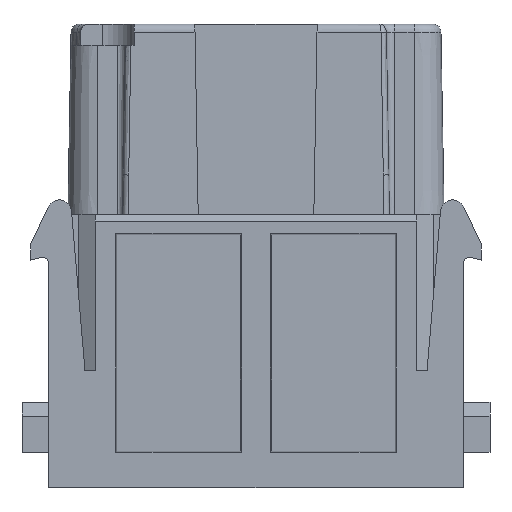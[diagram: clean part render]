
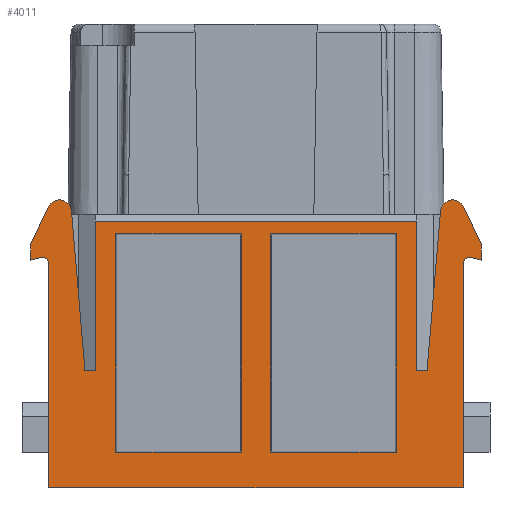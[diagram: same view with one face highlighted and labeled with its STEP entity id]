
A CAD part, left-side view. The second image highlights one B-rep face of the part: STEP entity #4011.
In plain terms, the highlighted planar face has unit normal (-1, 0, 0).
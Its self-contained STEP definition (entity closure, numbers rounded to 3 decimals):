
#3700=CIRCLE('',#12403,0.9);
#3701=CIRCLE('',#12404,0.45);
#3702=CIRCLE('',#12405,0.45);
#3703=CIRCLE('',#12406,0.9);
#3846=FACE_BOUND('',#5139,.T.);
#3847=FACE_BOUND('',#5140,.T.);
#3848=FACE_BOUND('',#5141,.T.);
#4011=ADVANCED_FACE('',(#3846,#3847,#3848),#4476,.F.);
#4476=PLANE('',#12407);
#5139=EDGE_LOOP('',(#6697,#6698,#6699,#6700));
#5140=EDGE_LOOP('',(#6701,#6702,#6703,#6704));
#5141=EDGE_LOOP('',(#6705,#6706,#6707,#6708,#6709,#6710,#6711,#6712,#6713,
#6714,#6715,#6716,#6717,#6718,#6719,#6720,#6721,#6722,#6723,#6724));
#6697=ORIENTED_EDGE('',*,*,#9791,.T.);
#6698=ORIENTED_EDGE('',*,*,#9794,.T.);
#6699=ORIENTED_EDGE('',*,*,#9797,.T.);
#6700=ORIENTED_EDGE('',*,*,#9799,.T.);
#6701=ORIENTED_EDGE('',*,*,#9809,.T.);
#6702=ORIENTED_EDGE('',*,*,#9811,.T.);
#6703=ORIENTED_EDGE('',*,*,#9803,.T.);
#6704=ORIENTED_EDGE('',*,*,#9806,.T.);
#6705=ORIENTED_EDGE('',*,*,#9953,.T.);
#6706=ORIENTED_EDGE('',*,*,#9954,.T.);
#6707=ORIENTED_EDGE('',*,*,#9955,.F.);
#6708=ORIENTED_EDGE('',*,*,#9782,.F.);
#6709=ORIENTED_EDGE('',*,*,#9956,.T.);
#6710=ORIENTED_EDGE('',*,*,#9957,.T.);
#6711=ORIENTED_EDGE('',*,*,#9958,.T.);
#6712=ORIENTED_EDGE('',*,*,#9959,.T.);
#6713=ORIENTED_EDGE('',*,*,#9960,.T.);
#6714=ORIENTED_EDGE('',*,*,#9961,.T.);
#6715=ORIENTED_EDGE('',*,*,#9962,.F.);
#6716=ORIENTED_EDGE('',*,*,#9712,.F.);
#6717=ORIENTED_EDGE('',*,*,#9928,.T.);
#6718=ORIENTED_EDGE('',*,*,#9963,.T.);
#6719=ORIENTED_EDGE('',*,*,#9964,.T.);
#6720=ORIENTED_EDGE('',*,*,#9965,.T.);
#6721=ORIENTED_EDGE('',*,*,#9966,.T.);
#6722=ORIENTED_EDGE('',*,*,#9967,.T.);
#6723=ORIENTED_EDGE('',*,*,#9968,.T.);
#6724=ORIENTED_EDGE('',*,*,#9969,.F.);
#8852=VERTEX_POINT('',#15350);
#8859=VERTEX_POINT('',#15363);
#8929=VERTEX_POINT('',#15574);
#8930=VERTEX_POINT('',#15576);
#8935=VERTEX_POINT('',#15588);
#8938=VERTEX_POINT('',#15593);
#8940=VERTEX_POINT('',#15599);
#8942=VERTEX_POINT('',#15605);
#8943=VERTEX_POINT('',#15612);
#8946=VERTEX_POINT('',#15617);
#8948=VERTEX_POINT('',#15623);
#8950=VERTEX_POINT('',#15629);
#9047=VERTEX_POINT('',#15944);
#9071=VERTEX_POINT('',#15996);
#9072=VERTEX_POINT('',#15997);
#9073=VERTEX_POINT('',#15999);
#9074=VERTEX_POINT('',#16002);
#9075=VERTEX_POINT('',#16004);
#9076=VERTEX_POINT('',#16006);
#9077=VERTEX_POINT('',#16008);
#9078=VERTEX_POINT('',#16010);
#9079=VERTEX_POINT('',#16012);
#9080=VERTEX_POINT('',#16015);
#9081=VERTEX_POINT('',#16017);
#9082=VERTEX_POINT('',#16019);
#9083=VERTEX_POINT('',#16021);
#9084=VERTEX_POINT('',#16023);
#9085=VERTEX_POINT('',#16025);
#9712=EDGE_CURVE('',#8859,#8852,#10796,.T.);
#9782=EDGE_CURVE('',#8929,#8930,#10814,.T.);
#9791=EDGE_CURVE('',#8935,#8938,#10823,.T.);
#9794=EDGE_CURVE('',#8938,#8940,#10826,.T.);
#9797=EDGE_CURVE('',#8940,#8942,#10829,.T.);
#9799=EDGE_CURVE('',#8942,#8935,#10831,.T.);
#9803=EDGE_CURVE('',#8943,#8946,#10835,.T.);
#9806=EDGE_CURVE('',#8946,#8948,#10838,.T.);
#9809=EDGE_CURVE('',#8948,#8950,#10841,.T.);
#9811=EDGE_CURVE('',#8950,#8943,#10843,.T.);
#9928=EDGE_CURVE('',#8859,#9047,#10925,.T.);
#9953=EDGE_CURVE('',#9071,#9072,#10946,.T.);
#9954=EDGE_CURVE('',#9072,#9073,#10947,.T.);
#9955=EDGE_CURVE('',#8930,#9073,#10948,.T.);
#9956=EDGE_CURVE('',#8929,#9074,#10949,.T.);
#9957=EDGE_CURVE('',#9074,#9075,#3700,.T.);
#9958=EDGE_CURVE('',#9075,#9076,#10950,.T.);
#9959=EDGE_CURVE('',#9076,#9077,#10951,.T.);
#9960=EDGE_CURVE('',#9077,#9078,#10952,.T.);
#9961=EDGE_CURVE('',#9078,#9079,#3701,.T.);
#9962=EDGE_CURVE('',#8852,#9079,#10953,.T.);
#9963=EDGE_CURVE('',#9047,#9080,#3702,.T.);
#9964=EDGE_CURVE('',#9080,#9081,#10954,.T.);
#9965=EDGE_CURVE('',#9081,#9082,#10955,.T.);
#9966=EDGE_CURVE('',#9082,#9083,#10956,.T.);
#9967=EDGE_CURVE('',#9083,#9084,#3703,.T.);
#9968=EDGE_CURVE('',#9084,#9085,#10957,.T.);
#9969=EDGE_CURVE('',#9071,#9085,#10958,.T.);
#10796=LINE('',#15364,#11482);
#10814=LINE('',#15575,#11500);
#10823=LINE('',#15594,#11509);
#10826=LINE('',#15600,#11512);
#10829=LINE('',#15606,#11515);
#10831=LINE('',#15609,#11517);
#10835=LINE('',#15618,#11521);
#10838=LINE('',#15624,#11524);
#10841=LINE('',#15630,#11527);
#10843=LINE('',#15633,#11529);
#10925=LINE('',#15945,#11611);
#10946=LINE('',#15995,#11632);
#10947=LINE('',#15998,#11633);
#10948=LINE('',#16000,#11634);
#10949=LINE('',#16001,#11635);
#10950=LINE('',#16005,#11636);
#10951=LINE('',#16007,#11637);
#10952=LINE('',#16009,#11638);
#10953=LINE('',#16013,#11639);
#10954=LINE('',#16016,#11640);
#10955=LINE('',#16018,#11641);
#10956=LINE('',#16020,#11642);
#10957=LINE('',#16024,#11643);
#10958=LINE('',#16026,#11644);
#11482=VECTOR('',#12870,1.);
#11500=VECTOR('',#12990,1.);
#11509=VECTOR('',#13001,1.);
#11512=VECTOR('',#13006,1.);
#11515=VECTOR('',#13011,1.);
#11517=VECTOR('',#13015,1.);
#11521=VECTOR('',#13021,1.);
#11524=VECTOR('',#13026,1.);
#11527=VECTOR('',#13031,1.);
#11529=VECTOR('',#13035,1.);
#11611=VECTOR('',#13215,1.);
#11632=VECTOR('',#13248,1.);
#11633=VECTOR('',#13249,1.);
#11634=VECTOR('',#13250,1.);
#11635=VECTOR('',#13251,1.);
#11636=VECTOR('',#13254,1.);
#11637=VECTOR('',#13255,1.);
#11638=VECTOR('',#13256,1.);
#11639=VECTOR('',#13259,1.);
#11640=VECTOR('',#13262,1.);
#11641=VECTOR('',#13263,1.);
#11642=VECTOR('',#13264,1.);
#11643=VECTOR('',#13267,1.);
#11644=VECTOR('',#13268,1.);
#12403=AXIS2_PLACEMENT_3D('',#16003,#13252,#13253);
#12404=AXIS2_PLACEMENT_3D('',#16011,#13257,#13258);
#12405=AXIS2_PLACEMENT_3D('',#16014,#13260,#13261);
#12406=AXIS2_PLACEMENT_3D('',#16022,#13265,#13266);
#12407=AXIS2_PLACEMENT_3D('',#16027,#13269,#13270);
#12870=DIRECTION('',(0.,1.,0.));
#12990=DIRECTION('',(0.,-1.,0.));
#13001=DIRECTION('',(0.,0.,-1.));
#13006=DIRECTION('',(0.,1.,0.));
#13011=DIRECTION('',(0.,0.,1.));
#13015=DIRECTION('',(0.,-1.,0.));
#13021=DIRECTION('',(0.,1.,0.));
#13026=DIRECTION('',(0.,0.,1.));
#13031=DIRECTION('',(0.,-1.,0.));
#13035=DIRECTION('',(0.,0.,-1.));
#13215=DIRECTION('',(0.,0.,1.));
#13248=DIRECTION('',(0.,0.,1.));
#13249=DIRECTION('',(0.,1.,0.));
#13250=DIRECTION('',(0.,0.,1.));
#13251=DIRECTION('',(0.,0.084,0.996));
#13252=DIRECTION('',(-1.,0.,0.));
#13253=DIRECTION('',(0.,-1.,0.));
#13254=DIRECTION('',(0.,0.423,-0.906));
#13255=DIRECTION('',(0.,0.,-1.));
#13256=DIRECTION('',(0.,-0.966,0.259));
#13257=DIRECTION('',(1.,0.,0.));
#13258=DIRECTION('',(0.,-1.,0.));
#13259=DIRECTION('',(0.,0.,1.));
#13260=DIRECTION('',(1.,0.,0.));
#13261=DIRECTION('',(0.,1.,0.));
#13262=DIRECTION('',(0.,-0.966,-0.259));
#13263=DIRECTION('',(0.,0.,1.));
#13264=DIRECTION('',(0.,0.423,0.906));
#13265=DIRECTION('',(-1.,0.,0.));
#13266=DIRECTION('',(0.,1.,0.));
#13267=DIRECTION('',(0.,0.084,-0.996));
#13268=DIRECTION('',(0.,-1.,0.));
#13269=DIRECTION('',(1.,0.,0.));
#13270=DIRECTION('',(0.,0.,1.));
#15350=CARTESIAN_POINT('',(-7.325,15.15,-2.6));
#15363=CARTESIAN_POINT('',(-7.325,-15.15,-2.6));
#15364=CARTESIAN_POINT('',(-7.325,-15.15,-2.6));
#15574=CARTESIAN_POINT('',(-7.325,12.5,5.95));
#15575=CARTESIAN_POINT('',(-7.325,15.15,5.95));
#15576=CARTESIAN_POINT('',(-7.325,11.75,5.95));
#15588=CARTESIAN_POINT('',(-7.325,-10.25,16.));
#15593=CARTESIAN_POINT('',(-7.325,-10.25,0.));
#15594=CARTESIAN_POINT('',(-7.325,-10.25,-2.6));
#15599=CARTESIAN_POINT('',(-7.325,-1.05,0.));
#15600=CARTESIAN_POINT('',(-7.325,-15.15,0.));
#15605=CARTESIAN_POINT('',(-7.325,-1.05,16.));
#15606=CARTESIAN_POINT('',(-7.325,-1.05,-2.6));
#15609=CARTESIAN_POINT('',(-7.325,-15.15,16.));
#15612=CARTESIAN_POINT('',(-7.325,1.05,0.));
#15617=CARTESIAN_POINT('',(-7.325,10.25,0.));
#15618=CARTESIAN_POINT('',(-7.325,-15.15,0.));
#15623=CARTESIAN_POINT('',(-7.325,10.25,16.));
#15624=CARTESIAN_POINT('',(-7.325,10.25,-2.6));
#15629=CARTESIAN_POINT('',(-7.325,1.05,16.));
#15630=CARTESIAN_POINT('',(-7.325,-15.15,16.));
#15633=CARTESIAN_POINT('',(-7.325,1.05,-2.6));
#15944=CARTESIAN_POINT('',(-7.325,-15.15,13.8));
#15945=CARTESIAN_POINT('',(-7.325,-15.15,-2.6));
#15995=CARTESIAN_POINT('',(-7.325,-11.75,5.95));
#15996=CARTESIAN_POINT('',(-7.325,-11.75,5.95));
#15997=CARTESIAN_POINT('',(-7.325,-11.75,16.9));
#15998=CARTESIAN_POINT('',(-7.325,-15.15,16.9));
#15999=CARTESIAN_POINT('',(-7.325,11.75,16.9));
#16000=CARTESIAN_POINT('',(-7.325,11.75,5.95));
#16001=CARTESIAN_POINT('',(-7.325,13.48,17.625));
#16002=CARTESIAN_POINT('',(-7.325,13.48,17.625));
#16003=CARTESIAN_POINT('',(-7.325,14.377,17.55));
#16004=CARTESIAN_POINT('',(-7.325,15.193,17.931));
#16005=CARTESIAN_POINT('',(-7.325,16.45,15.238));
#16006=CARTESIAN_POINT('',(-7.325,16.45,15.238));
#16007=CARTESIAN_POINT('',(-7.325,16.45,14.038));
#16008=CARTESIAN_POINT('',(-7.325,16.45,14.038));
#16009=CARTESIAN_POINT('',(-7.325,15.716,14.235));
#16010=CARTESIAN_POINT('',(-7.325,15.716,14.235));
#16011=CARTESIAN_POINT('',(-7.325,15.6,13.8));
#16012=CARTESIAN_POINT('',(-7.325,15.15,13.8));
#16013=CARTESIAN_POINT('',(-7.325,15.15,-2.6));
#16014=CARTESIAN_POINT('',(-7.325,-15.6,13.8));
#16015=CARTESIAN_POINT('',(-7.325,-15.716,14.235));
#16016=CARTESIAN_POINT('',(-7.325,-15.716,14.235));
#16017=CARTESIAN_POINT('',(-7.325,-16.45,14.038));
#16018=CARTESIAN_POINT('',(-7.325,-16.45,14.038));
#16019=CARTESIAN_POINT('',(-7.325,-16.45,15.238));
#16020=CARTESIAN_POINT('',(-7.325,-16.45,15.238));
#16021=CARTESIAN_POINT('',(-7.325,-15.193,17.931));
#16022=CARTESIAN_POINT('',(-7.325,-14.377,17.55));
#16023=CARTESIAN_POINT('',(-7.325,-13.48,17.625));
#16024=CARTESIAN_POINT('',(-7.325,-13.48,17.625));
#16025=CARTESIAN_POINT('',(-7.325,-12.5,5.95));
#16026=CARTESIAN_POINT('',(-7.325,-11.75,5.95));
#16027=CARTESIAN_POINT('',(-7.325,-15.15,-2.6));
